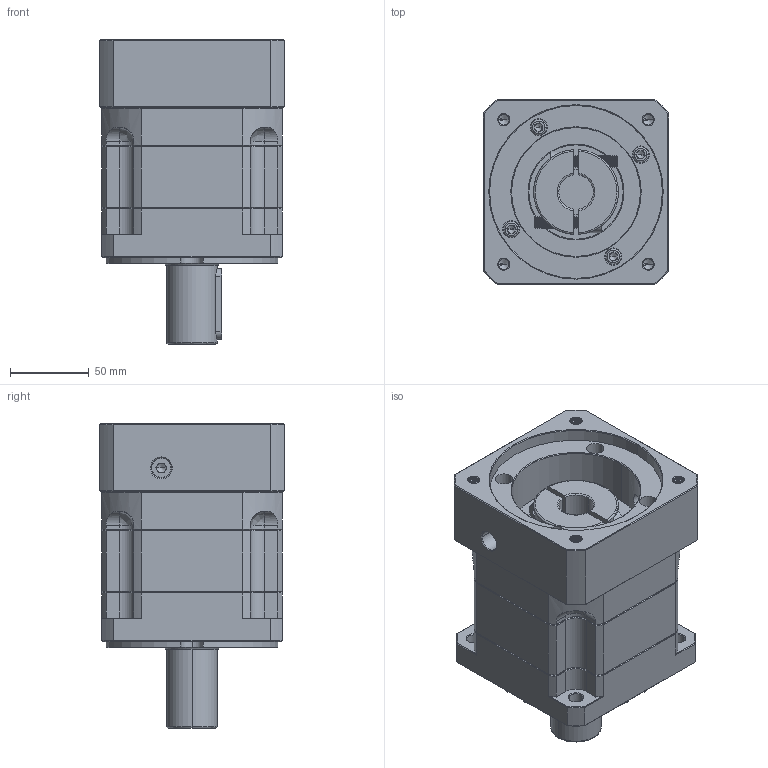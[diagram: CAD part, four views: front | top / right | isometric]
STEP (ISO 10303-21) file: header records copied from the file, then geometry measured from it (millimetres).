
FILE_DESCRIPTION (( 'STEP AP214' ), '1' );
FILE_NAME ('ZB115A-D32-L1-22-110-130-M8.step', '2023-03-02T08:59:47', ( '' ), ( 'Microsoft' ), 'SwSTEP 2.0', 'SolidWorks 2016', '' );
FILE_SCHEMA (( 'AUTOMOTIVE_DESIGN' ));
Length unit declared in the file: millimetre
Products named in the file (1): ZB115A-D32-L1-22-110-130-M8
Bounding box: 118 x 118 x 193.5 mm (x, y, z)
Volume: 1561099.3 mm3; surface area: 170367.4 mm2
Topology: 6 solids, 6 shells, 2119 faces, 5468 edges, 3444 vertices
Faces by surface type: plane 964, cylinder 441, cone 369, bspline 325, torus 20
Entity records: 113533 total; most frequent: CARTESIAN_POINT 41505, ORIENTED_EDGE 10868, DIRECTION 8924, EDGE_CURVE 5434, VERTEX_POINT 3444, LINE 3376, VECTOR 3376, AXIS2_PLACEMENT_3D 2774
